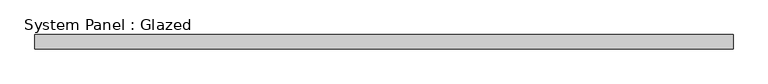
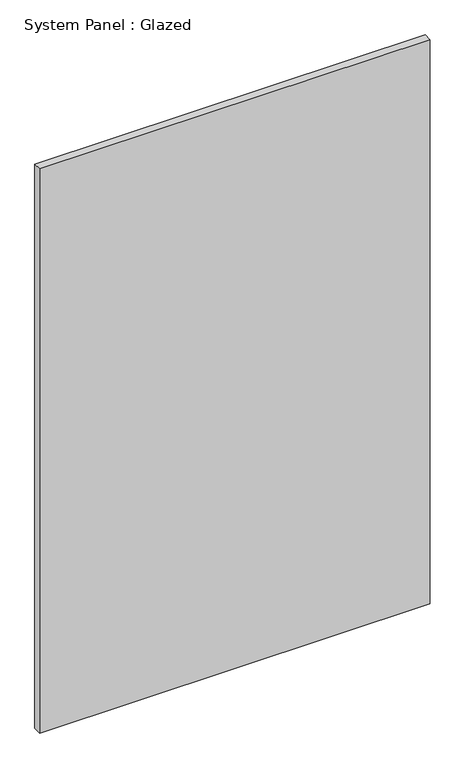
"""IFC4 building model written with IfcOpenShell, lengths in millimetres: plate geometry, System Panel : Glazed."""

import ifcopenshell
import ifcopenshell.guid

model = None  # the IFC model being written
_history = None  # IfcOwnerHistory: only IFC2X3 demands one
_inside = {}  # id of a spatial element -> (the spatial element, [elements in it])
_under = {}  # id of a project, library or spatial element -> (it, [spatial elements below it])
_declared = {}  # id of a project -> (the project, [libraries it declares])
_typed = {}  # id of a type object -> (the type object, [elements of that type])
_made_of = {}  # id of a material, layer set ... -> (it, [elements and type objects made of it])


def new_model(schema):
    """Start an empty IFC model of exactly this schema.

    Asked for "IFC4X3", IfcOpenShell would pick the latest addendum, in which some entities
    have other attributes; the version numbers below select the first issue.
    IFC2X3 requires an IfcOwnerHistory on every rooted entity: one is made here for all.
    """
    global model, _history
    if schema == "IFC4X3":
        model = ifcopenshell.file(schema_version=(4, 3, 0, 0))
    else:
        model = ifcopenshell.file(schema=schema)
    _inside.clear()
    _under.clear()
    _declared.clear()
    _typed.clear()
    _made_of.clear()
    _history = None
    if model.schema == "IFC2X3":
        org = make("IfcOrganization", Name="unknown")
        user = make(
            "IfcPersonAndOrganization",
            ThePerson=make("IfcPerson", FamilyName="unknown"),
            TheOrganization=org,
        )
        app = make(
            "IfcApplication",
            ApplicationDeveloper=org,
            Version="unknown",
            ApplicationFullName="unknown",
            ApplicationIdentifier="unknown",
        )
        _history = make(
            "IfcOwnerHistory",
            OwningUser=user,
            OwningApplication=app,
            ChangeAction="ADDED",
            CreationDate=0,
        )
    return model


def make(cls, **values):
    """One entity of the class cls with the attributes given. An attribute that is None is left unset."""
    return model.create_entity(
        cls, **{name: value for name, value in values.items() if value is not None}
    )


def rooted(cls, **values):
    """An entity with a GlobalId (a new one), such as an element, a storey or a relation."""
    return make(cls, GlobalId=ifcopenshell.guid.new(), OwnerHistory=_history, **values)


def si_unit(unit_type, name, prefix=None):
    """IfcSIUnit, for example si_unit("LENGTHUNIT", "METRE", prefix="MILLI")."""
    return make("IfcSIUnit", UnitType=unit_type, Prefix=prefix, Name=name)


def assignment(units):
    """IfcUnitAssignment: the units of a project."""
    return None if units is None else make("IfcUnitAssignment", Units=units)


def point(xyz):
    """IfcCartesianPoint."""
    return None if xyz is None else make("IfcCartesianPoint", Coordinates=xyz)


def direction(xyz):
    """IfcDirection."""
    return None if xyz is None else make("IfcDirection", DirectionRatios=xyz)


def frame(location, z_axis=None, x_axis=None):
    """IfcAxis2Placement3D, a coordinate frame: its origin and axes. An axis left out is left unset."""
    return make(
        "IfcAxis2Placement3D",
        Location=point(location),
        Axis=direction(z_axis),
        RefDirection=direction(x_axis),
    )


def origin():
    """The frame at (0, 0, 0) with its axes left unset."""
    return frame((0.0, 0.0, 0.0))


def origin_with_axes():
    """The frame at (0, 0, 0) with the z axis (0, 0, 1) and the x axis (1, 0, 0) written out."""
    return frame((0.0, 0.0, 0.0), z_axis=(0.0, 0.0, 1.0), x_axis=(1.0, 0.0, 0.0))


def place(relative_to, where):
    """IfcLocalPlacement: puts the frame where relative to a parent placement (None: the world)."""
    return make(
        "IfcLocalPlacement", PlacementRelTo=relative_to, RelativePlacement=where
    )


def context(
    kind, dimensions, precision=None, world=None, true_north=None, identifier=None
):
    """IfcGeometricRepresentationContext, for example the 3D "Model" context."""
    return make(
        "IfcGeometricRepresentationContext",
        ContextIdentifier=identifier,
        ContextType=kind,
        CoordinateSpaceDimension=dimensions,
        Precision=precision,
        WorldCoordinateSystem=world,
        TrueNorth=true_north,
    )


def project(units=None, contexts=None):
    """IfcProject with its units and contexts."""
    return rooted(
        "IfcProject",
        Name="project",
        RepresentationContexts=contexts,
        UnitsInContext=assignment(units),
    )


def spatial(cls, under=None, at=None, **own):
    """A site, building, storey or space (cls), placed at a placement, below another one or the project."""
    s = rooted(cls, ObjectPlacement=at, **own)
    if under is not None:
        _under.setdefault(under.id(), (under, []))[1].append(s)
    return s


def polyline(points):
    """IfcPolyline through the points."""
    return make("IfcPolyline", Points=[point(p) for p in points])


def outline(outer, holes=None, kind="AREA"):
    """IfcArbitraryClosedProfileDef: a profile drawn as a closed curve; with holes, ...WithVoids."""
    if holes is None:
        return make("IfcArbitraryClosedProfileDef", ProfileType=kind, OuterCurve=outer)
    return make(
        "IfcArbitraryProfileDefWithVoids",
        ProfileType=kind,
        OuterCurve=outer,
        InnerCurves=holes,
    )


def extrude(swept, where, along, depth):
    """IfcExtrudedAreaSolid: the profile swept, set in the frame where, extruded along a direction by depth."""
    return make(
        "IfcExtrudedAreaSolid",
        SweptArea=swept,
        Position=where,
        ExtrudedDirection=direction(along),
        Depth=depth,
    )


def shape(context_of_items, identifier, shape_type, items):
    """IfcShapeRepresentation: the items that make up one representation, for example the "Body"."""
    return make(
        "IfcShapeRepresentation",
        ContextOfItems=context_of_items,
        RepresentationIdentifier=identifier,
        RepresentationType=shape_type,
        Items=items,
    )


def source(mapping_origin, context_of_items, identifier, shape_type, items):
    """IfcRepresentationMap: a shape defined once, which mapped items show again and again."""
    return make(
        "IfcRepresentationMap",
        MappingOrigin=mapping_origin,
        MappedRepresentation=shape(context_of_items, identifier, shape_type, items),
    )


def transform(
    local_origin,
    x_axis=None,
    y_axis=None,
    z_axis=None,
    scale=None,
    scale2=None,
    scale3=None,
    uniform=True,
):
    """IfcCartesianTransformationOperator3D, or its non-uniform kind. x_axis, y_axis, z_axis: its Axis1, 2, 3."""
    if uniform:
        return make(
            "IfcCartesianTransformationOperator3D",
            Axis1=direction(x_axis),
            Axis2=direction(y_axis),
            LocalOrigin=point(local_origin),
            Scale=scale,
            Axis3=direction(z_axis),
        )
    return make(
        "IfcCartesianTransformationOperator3DnonUniform",
        Axis1=direction(x_axis),
        Axis2=direction(y_axis),
        LocalOrigin=point(local_origin),
        Scale=scale,
        Axis3=direction(z_axis),
        Scale2=scale2,
        Scale3=scale3,
    )


def mapped(mapping_source, mapping_target):
    """IfcMappedItem: shows the shape of a source again, moved by a transform."""
    return make(
        "IfcMappedItem", MappingSource=mapping_source, MappingTarget=mapping_target
    )


def made_of(thing, what):
    """Note that an element or type object is made of a material, layer set ...; save() writes the relation."""
    if what is not None:
        _made_of.setdefault(what.id(), (what, []))[1].append(thing)
    return thing


def element(
    cls,
    number,
    at=None,
    inside=None,
    cuts=None,
    type_object=None,
    material=None,
    context=None,
    identifier="Body",
    shape_type=None,
    held_by="IfcProductDefinitionShape",
    body=None,
    shapes=None,
    **own,
):
    """One element of the class cls, such as IfcWall. Its Tag is "e" and its number.

    at: its placement. inside: the storey or other place that contains it. cuts: it is an
    opening in that element (IfcRelVoidsElement). A single representation is given by context,
    identifier, shape_type and body (its items); several are given by shapes. held_by: the class
    of the entity that holds the representations. save() writes the other relations.
    """
    e = rooted(cls, Tag="e%d" % number, ObjectPlacement=at, **own)
    if body is not None:
        shapes = [shape(context, identifier, shape_type, body)]
    if shapes is not None:
        e.Representation = make(held_by, Representations=shapes)
    if inside is not None:
        _inside.setdefault(inside.id(), (inside, []))[1].append(e)
    if cuts is not None:
        rooted(
            "IfcRelVoidsElement", RelatingBuildingElement=cuts, RelatedOpeningElement=e
        )
    if type_object is not None:
        _typed.setdefault(type_object.id(), (type_object, []))[1].append(e)
    return made_of(e, material)


def aggregate(whole, parts):
    """IfcRelAggregates: a whole, such as a stair, and the parts it consists of."""
    return rooted("IfcRelAggregates", RelatingObject=whole, RelatedObjects=parts)


def save(model, path):
    """Write the relations noted so far, then the file.

    IfcRelAggregates (storeys below a building ...), IfcRelContainedInSpatialStructure (elements
    in a storey), IfcRelDefinesByType, IfcRelAssociatesMaterial and IfcRelDeclares: one each for
    every whole, place, type object, material and project.
    """
    for whole, parts in _under.values():
        aggregate(whole, parts)
    for where, things in _inside.values():
        rooted(
            "IfcRelContainedInSpatialStructure",
            RelatedElements=things,
            RelatingStructure=where,
        )
    for kind, things in _typed.values():
        rooted("IfcRelDefinesByType", RelatedObjects=things, RelatingType=kind)
    for what, things in _made_of.values():
        rooted("IfcRelAssociatesMaterial", RelatedObjects=things, RelatingMaterial=what)
    for by, libraries in _declared.values():
        rooted("IfcRelDeclares", RelatingContext=by, RelatedDefinitions=libraries)
    model.write(path)


def system_panel_glazed_3c257985(model_context):
    return source(origin(), model_context, "Body", "SweptSolid", [
        extrude(outline(polyline([(607.7777778, -49.5), (-607.7777778, -49.5), (-607.7777778, -24.5), (607.7777778, -24.5), (607.7777778, -49.5)])), origin_with_axes(), (0.0, 0.0, 1.0), 1854.4),
    ])


if __name__ == "__main__":
    model = new_model("IFC4")
    model_context = context("Model", 3, world=origin())
    ifc_project = project(units=[si_unit("LENGTHUNIT", "METRE", prefix="MILLI")], contexts=[model_context])
    site = spatial("IfcSite", under=ifc_project)
    building = spatial("IfcBuilding", under=site)
    placement = place(None, origin())
    system_panel_glazed_shape = system_panel_glazed_3c257985(model_context)
    element("IfcPlate", 1, ObjectType="System Panel : Glazed", at=placement, inside=building, context=model_context, shape_type="MappedRepresentation", body=[
        mapped(system_panel_glazed_shape, transform((0.0, 0.0, 0.0), x_axis=(1.0, 0.0, 0.0), y_axis=(0.0, 1.0, 0.0), z_axis=(0.0, 0.0, 1.0))),
    ])
    save(model, "model.ifc")
